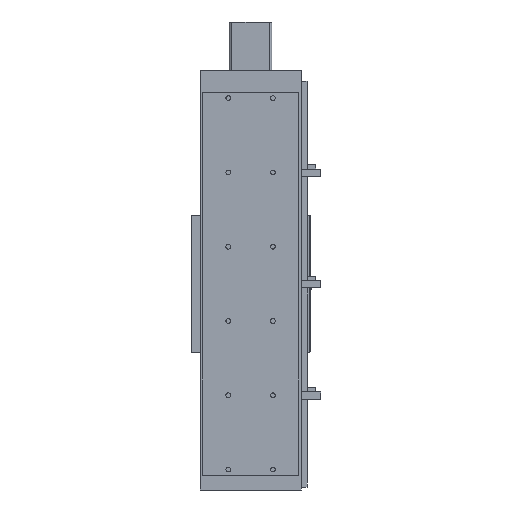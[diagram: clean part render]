
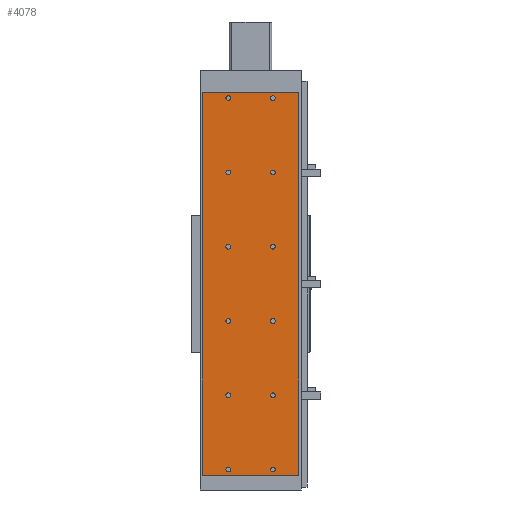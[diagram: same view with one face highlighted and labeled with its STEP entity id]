
A CAD part, front view. The second image highlights one B-rep face of the part: STEP entity #4078.
In plain terms, the highlighted planar face has unit normal (0, -1, 0).
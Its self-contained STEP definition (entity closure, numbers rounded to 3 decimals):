
#2214=CARTESIAN_POINT('',(26.75,0.0,7.5));
#2215=VERTEX_POINT('',#2214);
#2216=CARTESIAN_POINT('',(30.,0.0,7.5));
#2217=DIRECTION('',(0.0,1.0,0.0));
#2218=DIRECTION('',(1.0,0.0,0.0));
#2219=AXIS2_PLACEMENT_3D('',#2216,#2217,#2218);
#2220=CIRCLE('',#2219,3.25);
#2221=EDGE_CURVE('',#2215,#2215,#2220,.T.);
#2255=CARTESIAN_POINT('',(-33.25,0.0,7.5));
#2256=VERTEX_POINT('',#2255);
#2257=CARTESIAN_POINT('',(-30.,0.0,7.5));
#2258=DIRECTION('',(0.0,1.0,0.0));
#2259=DIRECTION('',(1.0,0.0,0.0));
#2260=AXIS2_PLACEMENT_3D('',#2257,#2258,#2259);
#2261=CIRCLE('',#2260,3.25);
#2262=EDGE_CURVE('',#2256,#2256,#2261,.T.);
#2434=CARTESIAN_POINT('',(26.75,0.0,107.5));
#2435=VERTEX_POINT('',#2434);
#2436=CARTESIAN_POINT('',(30.,0.0,107.5));
#2437=DIRECTION('',(0.0,1.0,0.0));
#2438=DIRECTION('',(1.0,0.0,0.0));
#2439=AXIS2_PLACEMENT_3D('',#2436,#2437,#2438);
#2440=CIRCLE('',#2439,3.25);
#2441=EDGE_CURVE('',#2435,#2435,#2440,.T.);
#2475=CARTESIAN_POINT('',(-33.25,0.0,107.5));
#2476=VERTEX_POINT('',#2475);
#2477=CARTESIAN_POINT('',(-30.,0.0,107.5));
#2478=DIRECTION('',(0.0,1.0,0.0));
#2479=DIRECTION('',(1.0,0.0,0.0));
#2480=AXIS2_PLACEMENT_3D('',#2477,#2478,#2479);
#2481=CIRCLE('',#2480,3.25);
#2482=EDGE_CURVE('',#2476,#2476,#2481,.T.);
#2585=CARTESIAN_POINT('',(-33.25,0.0,407.5));
#2586=VERTEX_POINT('',#2585);
#2587=CARTESIAN_POINT('',(-30.,0.0,407.5));
#2588=DIRECTION('',(0.0,1.0,0.0));
#2589=DIRECTION('',(1.0,0.0,0.0));
#2590=AXIS2_PLACEMENT_3D('',#2587,#2588,#2589);
#2591=CIRCLE('',#2590,3.25);
#2592=EDGE_CURVE('',#2586,#2586,#2591,.T.);
#2764=CARTESIAN_POINT('',(26.75,0.0,407.5));
#2765=VERTEX_POINT('',#2764);
#2766=CARTESIAN_POINT('',(30.,0.0,407.5));
#2767=DIRECTION('',(0.0,1.0,0.0));
#2768=DIRECTION('',(1.0,0.0,0.0));
#2769=AXIS2_PLACEMENT_3D('',#2766,#2767,#2768);
#2770=CIRCLE('',#2769,3.25);
#2771=EDGE_CURVE('',#2765,#2765,#2770,.T.);
#2805=CARTESIAN_POINT('',(-33.25,0.0,507.5));
#2806=VERTEX_POINT('',#2805);
#2807=CARTESIAN_POINT('',(-30.,0.0,507.5));
#2808=DIRECTION('',(0.0,1.0,0.0));
#2809=DIRECTION('',(1.0,0.0,0.0));
#2810=AXIS2_PLACEMENT_3D('',#2807,#2808,#2809);
#2811=CIRCLE('',#2810,3.25);
#2812=EDGE_CURVE('',#2806,#2806,#2811,.T.);
#2984=CARTESIAN_POINT('',(26.75,0.0,507.5));
#2985=VERTEX_POINT('',#2984);
#2986=CARTESIAN_POINT('',(30.,0.0,507.5));
#2987=DIRECTION('',(0.0,1.0,0.0));
#2988=DIRECTION('',(1.0,0.0,0.0));
#2989=AXIS2_PLACEMENT_3D('',#2986,#2987,#2988);
#2990=CIRCLE('',#2989,3.25);
#2991=EDGE_CURVE('',#2985,#2985,#2990,.T.);
#3025=CARTESIAN_POINT('',(-33.25,0.0,207.5));
#3026=VERTEX_POINT('',#3025);
#3027=CARTESIAN_POINT('',(-30.,0.0,207.5));
#3028=DIRECTION('',(0.0,1.0,0.0));
#3029=DIRECTION('',(1.0,0.0,0.0));
#3030=AXIS2_PLACEMENT_3D('',#3027,#3028,#3029);
#3031=CIRCLE('',#3030,3.25);
#3032=EDGE_CURVE('',#3026,#3026,#3031,.T.);
#3204=CARTESIAN_POINT('',(26.75,0.0,207.5));
#3205=VERTEX_POINT('',#3204);
#3206=CARTESIAN_POINT('',(30.,0.0,207.5));
#3207=DIRECTION('',(0.0,1.0,0.0));
#3208=DIRECTION('',(1.0,0.0,0.0));
#3209=AXIS2_PLACEMENT_3D('',#3206,#3207,#3208);
#3210=CIRCLE('',#3209,3.25);
#3211=EDGE_CURVE('',#3205,#3205,#3210,.T.);
#3314=CARTESIAN_POINT('',(26.75,0.0,307.5));
#3315=VERTEX_POINT('',#3314);
#3316=CARTESIAN_POINT('',(30.,0.0,307.5));
#3317=DIRECTION('',(0.0,1.0,0.0));
#3318=DIRECTION('',(1.0,0.0,0.0));
#3319=AXIS2_PLACEMENT_3D('',#3316,#3317,#3318);
#3320=CIRCLE('',#3319,3.25);
#3321=EDGE_CURVE('',#3315,#3315,#3320,.T.);
#3424=CARTESIAN_POINT('',(-33.25,0.0,307.5));
#3425=VERTEX_POINT('',#3424);
#3426=CARTESIAN_POINT('',(-30.,0.0,307.5));
#3427=DIRECTION('',(0.0,1.0,0.0));
#3428=DIRECTION('',(1.0,0.0,0.0));
#3429=AXIS2_PLACEMENT_3D('',#3426,#3427,#3428);
#3430=CIRCLE('',#3429,3.25);
#3431=EDGE_CURVE('',#3425,#3425,#3430,.T.);
#3758=CARTESIAN_POINT('',(65.0,0.0,0.0));
#3759=VERTEX_POINT('',#3758);
#3766=CARTESIAN_POINT('',(-65.0,0.0,0.0));
#3767=VERTEX_POINT('',#3766);
#3768=CARTESIAN_POINT('',(-65.0,0.0,0.0));
#3769=DIRECTION('',(1.0,0.0,0.0));
#3770=VECTOR('',#3769,130.0);
#3771=LINE('',#3768,#3770);
#3772=EDGE_CURVE('',#3767,#3759,#3771,.T.);
#3962=CARTESIAN_POINT('',(-65.0,0.0,515.0));
#3963=VERTEX_POINT('',#3962);
#3970=CARTESIAN_POINT('',(65.0,0.0,515.0));
#3971=VERTEX_POINT('',#3970);
#3972=CARTESIAN_POINT('',(65.0,0.0,515.0));
#3973=DIRECTION('',(-1.0,0.0,0.0));
#3974=VECTOR('',#3973,130.0);
#3975=LINE('',#3972,#3974);
#3976=EDGE_CURVE('',#3971,#3963,#3975,.T.);
#3999=CARTESIAN_POINT('',(-65.0,0.0,0.0));
#4000=DIRECTION('',(0.0,0.0,1.0));
#4001=VECTOR('',#4000,515.0);
#4002=LINE('',#3999,#4001);
#4003=EDGE_CURVE('',#3767,#3963,#4002,.T.);
#4021=CARTESIAN_POINT('',(65.0,0.0,0.0));
#4022=DIRECTION('',(0.0,0.0,1.0));
#4023=VECTOR('',#4022,515.0);
#4024=LINE('',#4021,#4023);
#4025=EDGE_CURVE('',#3759,#3971,#4024,.T.);
#4031=CARTESIAN_POINT('',(65.0,0.0,0.0));
#4032=DIRECTION('',(0.0,-1.0,0.0));
#4033=DIRECTION('',(0.0,0.0,-1.0));
#4034=AXIS2_PLACEMENT_3D('',#4031,#4032,#4033);
#4035=PLANE('',#4034);
#4036=ORIENTED_EDGE('',*,*,#3976,.T.);
#4037=ORIENTED_EDGE('',*,*,#4003,.F.);
#4038=ORIENTED_EDGE('',*,*,#3772,.T.);
#4039=ORIENTED_EDGE('',*,*,#4025,.T.);
#4040=EDGE_LOOP('',(#4036,#4037,#4038,#4039));
#4041=FACE_OUTER_BOUND('',#4040,.T.);
#4042=ORIENTED_EDGE('',*,*,#2221,.T.);
#4043=EDGE_LOOP('',(#4042));
#4044=FACE_BOUND('',#4043,.T.);
#4045=ORIENTED_EDGE('',*,*,#2262,.T.);
#4046=EDGE_LOOP('',(#4045));
#4047=FACE_BOUND('',#4046,.T.);
#4048=ORIENTED_EDGE('',*,*,#2441,.T.);
#4049=EDGE_LOOP('',(#4048));
#4050=FACE_BOUND('',#4049,.T.);
#4051=ORIENTED_EDGE('',*,*,#2482,.T.);
#4052=EDGE_LOOP('',(#4051));
#4053=FACE_BOUND('',#4052,.T.);
#4054=ORIENTED_EDGE('',*,*,#2592,.T.);
#4055=EDGE_LOOP('',(#4054));
#4056=FACE_BOUND('',#4055,.T.);
#4057=ORIENTED_EDGE('',*,*,#2771,.T.);
#4058=EDGE_LOOP('',(#4057));
#4059=FACE_BOUND('',#4058,.T.);
#4060=ORIENTED_EDGE('',*,*,#2812,.T.);
#4061=EDGE_LOOP('',(#4060));
#4062=FACE_BOUND('',#4061,.T.);
#4063=ORIENTED_EDGE('',*,*,#2991,.T.);
#4064=EDGE_LOOP('',(#4063));
#4065=FACE_BOUND('',#4064,.T.);
#4066=ORIENTED_EDGE('',*,*,#3032,.T.);
#4067=EDGE_LOOP('',(#4066));
#4068=FACE_BOUND('',#4067,.T.);
#4069=ORIENTED_EDGE('',*,*,#3211,.T.);
#4070=EDGE_LOOP('',(#4069));
#4071=FACE_BOUND('',#4070,.T.);
#4072=ORIENTED_EDGE('',*,*,#3321,.T.);
#4073=EDGE_LOOP('',(#4072));
#4074=FACE_BOUND('',#4073,.T.);
#4075=ORIENTED_EDGE('',*,*,#3431,.T.);
#4076=EDGE_LOOP('',(#4075));
#4077=FACE_BOUND('',#4076,.T.);
#4078=ADVANCED_FACE('',(#4041,#4044,#4047,#4050,#4053,#4056,#4059,#4062,#4065,#4068,#4071,#4074,#4077),#4035,.T.);
